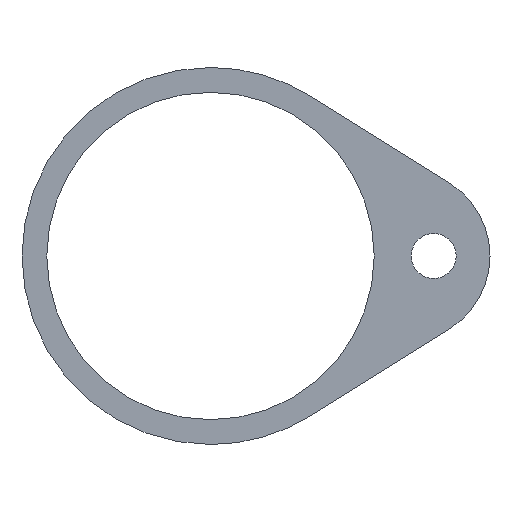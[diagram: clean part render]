
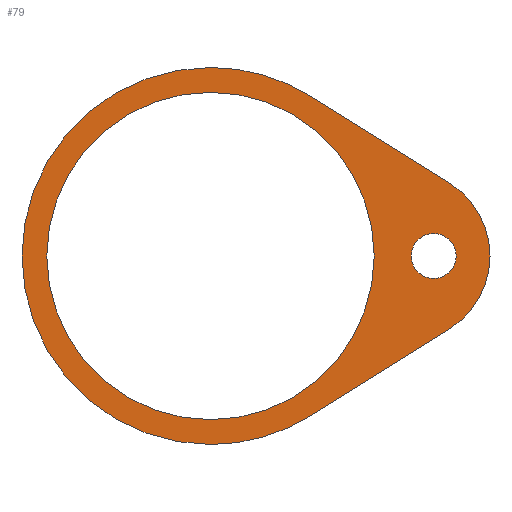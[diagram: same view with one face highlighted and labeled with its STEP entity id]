
A CAD part, front view. The second image highlights one B-rep face of the part: STEP entity #79.
In plain terms, the highlighted planar face has unit normal (0, -1, 0).
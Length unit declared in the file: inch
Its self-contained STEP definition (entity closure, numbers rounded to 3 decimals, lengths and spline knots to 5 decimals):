
#18 = LINE ( 'NONE', #345, #32 ) ;
#21 = CIRCLE ( 'NONE', #215, 0.775 ) ;
#23 = CIRCLE ( 'NONE', #176, 1.47638 ) ;
#25 = CIRCLE ( 'NONE', #202, 1.7 ) ;
#26 = CIRCLE ( 'NONE', #166, 0.203 ) ;
#29 = LINE ( 'NONE', #341, #31 ) ;
#31 = VECTOR ( 'NONE', #342, 39.37008 ) ;
#32 = VECTOR ( 'NONE', #346, 39.37008 ) ;
#49 = ORIENTED_EDGE ( 'NONE', *, *, #182, .F. ) ;
#56 = ORIENTED_EDGE ( 'NONE', *, *, #167, .T. ) ;
#62 = ORIENTED_EDGE ( 'NONE', *, *, #179, .F. ) ;
#65 = ORIENTED_EDGE ( 'NONE', *, *, #191, .T. ) ;
#79 = ADVANCED_FACE ( 'NONE', ( #240, #235, #84 ), #306, .F. ) ;
#84 = FACE_BOUND ( 'NONE', #120, .T. ) ;
#93 = EDGE_LOOP ( 'NONE', ( #56, #65 ) ) ;
#101 = CIRCLE ( 'NONE', #220, 1.7 ) ;
#103 = CIRCLE ( 'NONE', #216, 1.7 ) ;
#109 = EDGE_LOOP ( 'NONE', ( #62, #49, #115, #135, #119, #121 ) ) ;
#115 = ORIENTED_EDGE ( 'NONE', *, *, #174, .F. ) ;
#119 = ORIENTED_EDGE ( 'NONE', *, *, #181, .F. ) ;
#120 = EDGE_LOOP ( 'NONE', ( #137, #139 ) ) ;
#121 = ORIENTED_EDGE ( 'NONE', *, *, #172, .F. ) ;
#135 = ORIENTED_EDGE ( 'NONE', *, *, #180, .F. ) ;
#137 = ORIENTED_EDGE ( 'NONE', *, *, #193, .T. ) ;
#139 = ORIENTED_EDGE ( 'NONE', *, *, #168, .T. ) ;
#145 = CIRCLE ( 'NONE', #226, 0.203 ) ;
#166 = AXIS2_PLACEMENT_3D ( 'NONE', #314, #315, #316 ) ;
#167 = EDGE_CURVE ( 'NONE', #250, #251, #23, .T. ) ;
#168 = EDGE_CURVE ( 'NONE', #255, #254, #26, .T. ) ;
#172 = EDGE_CURVE ( 'NONE', #259, #246, #25, .T. ) ;
#174 = EDGE_CURVE ( 'NONE', #260, #261, #21, .T. ) ;
#176 = AXIS2_PLACEMENT_3D ( 'NONE', #312, #303, #313 ) ;
#179 = EDGE_CURVE ( 'NONE', #262, #259, #103, .T. ) ;
#180 = EDGE_CURVE ( 'NONE', #247, #260, #29, .T. ) ;
#181 = EDGE_CURVE ( 'NONE', #246, #247, #101, .T. ) ;
#182 = EDGE_CURVE ( 'NONE', #261, #262, #18, .T. ) ;
#191 = EDGE_CURVE ( 'NONE', #251, #250, #236, .T. ) ;
#193 = EDGE_CURVE ( 'NONE', #254, #255, #145, .T. ) ;
#202 = AXIS2_PLACEMENT_3D ( 'NONE', #324, #325, #326 ) ;
#213 = AXIS2_PLACEMENT_3D ( 'NONE', #307, #308, #309 ) ;
#215 = AXIS2_PLACEMENT_3D ( 'NONE', #329, #330, #331 ) ;
#216 = AXIS2_PLACEMENT_3D ( 'NONE', #337, #339, #340 ) ;
#217 = AXIS2_PLACEMENT_3D ( 'NONE', #367, #369, #370 ) ;
#220 = AXIS2_PLACEMENT_3D ( 'NONE', #334, #343, #344 ) ;
#226 = AXIS2_PLACEMENT_3D ( 'NONE', #364, #374, #375 ) ;
#235 = FACE_OUTER_BOUND ( 'NONE', #109, .T. ) ;
#236 = CIRCLE ( 'NONE', #217, 1.47638 ) ;
#240 = FACE_BOUND ( 'NONE', #93, .T. ) ;
#246 = VERTEX_POINT ( 'NONE', #381 ) ;
#247 = VERTEX_POINT ( 'NONE', #389 ) ;
#250 = VERTEX_POINT ( 'NONE', #391 ) ;
#251 = VERTEX_POINT ( 'NONE', #392 ) ;
#254 = VERTEX_POINT ( 'NONE', #394 ) ;
#255 = VERTEX_POINT ( 'NONE', #395 ) ;
#259 = VERTEX_POINT ( 'NONE', #399 ) ;
#260 = VERTEX_POINT ( 'NONE', #400 ) ;
#261 = VERTEX_POINT ( 'NONE', #401 ) ;
#262 = VERTEX_POINT ( 'NONE', #402 ) ;
#303 = DIRECTION ( 'NONE',  ( 0., 1., 0. ) ) ;
#306 = PLANE ( 'NONE',  #213 ) ;
#307 = CARTESIAN_POINT ( 'NONE',  ( 0., 0., 0. ) ) ;
#308 = DIRECTION ( 'NONE',  ( 0., 1., 0. ) ) ;
#309 = DIRECTION ( 'NONE',  ( 0., 0., 1. ) ) ;
#312 = CARTESIAN_POINT ( 'NONE',  ( 0., 0., 0. ) ) ;
#313 = DIRECTION ( 'NONE',  ( 0., 0., 1. ) ) ;
#314 = CARTESIAN_POINT ( 'NONE',  ( 2.012, 0., 0. ) ) ;
#315 = DIRECTION ( 'NONE',  ( 0., 1., 0. ) ) ;
#316 = DIRECTION ( 'NONE',  ( 0., 0., 1. ) ) ;
#324 = CARTESIAN_POINT ( 'NONE',  ( 0., 0., 0. ) ) ;
#325 = DIRECTION ( 'NONE',  ( 0., 1., 0. ) ) ;
#326 = DIRECTION ( 'NONE',  ( 0., 0., 1. ) ) ;
#329 = CARTESIAN_POINT ( 'NONE',  ( 1.74555, 0., 0. ) ) ;
#330 = DIRECTION ( 'NONE',  ( 0., 1., 0. ) ) ;
#331 = DIRECTION ( 'NONE',  ( 0., 0., 1. ) ) ;
#334 = CARTESIAN_POINT ( 'NONE',  ( 0., 0., 0. ) ) ;
#337 = CARTESIAN_POINT ( 'NONE',  ( 0., 0., 0. ) ) ;
#339 = DIRECTION ( 'NONE',  ( 0., 1., 0. ) ) ;
#340 = DIRECTION ( 'NONE',  ( 0., 0., 1. ) ) ;
#341 = CARTESIAN_POINT ( 'NONE',  ( 0.90086, 0., 1.44168 ) ) ;
#342 = DIRECTION ( 'NONE',  ( 0.848, 0., -0.53 ) ) ;
#343 = DIRECTION ( 'NONE',  ( 0., 1., 0. ) ) ;
#344 = DIRECTION ( 'NONE',  ( 0., 0., 1. ) ) ;
#345 = CARTESIAN_POINT ( 'NONE',  ( 0.90086, 0., -1.44168 ) ) ;
#346 = DIRECTION ( 'NONE',  ( -0.848, 0., -0.53 ) ) ;
#364 = CARTESIAN_POINT ( 'NONE',  ( 2.012, 0., 0. ) ) ;
#367 = CARTESIAN_POINT ( 'NONE',  ( 0., 0., 0. ) ) ;
#369 = DIRECTION ( 'NONE',  ( 0., 1., 0. ) ) ;
#370 = DIRECTION ( 'NONE',  ( 0., 0., 1. ) ) ;
#374 = DIRECTION ( 'NONE',  ( 0., 1., 0. ) ) ;
#375 = DIRECTION ( 'NONE',  ( 0., 0., 1. ) ) ;
#381 = CARTESIAN_POINT ( 'NONE',  ( 0., 0., 1.7 ) ) ;
#389 = CARTESIAN_POINT ( 'NONE',  ( 0.90086, 0., 1.44168 ) ) ;
#391 = CARTESIAN_POINT ( 'NONE',  ( 0., 0., -1.47638 ) ) ;
#392 = CARTESIAN_POINT ( 'NONE',  ( 0., 0., 1.47638 ) ) ;
#394 = CARTESIAN_POINT ( 'NONE',  ( 2.012, 0., -0.203 ) ) ;
#395 = CARTESIAN_POINT ( 'NONE',  ( 2.012, 0., 0.203 ) ) ;
#399 = CARTESIAN_POINT ( 'NONE',  ( 0., 0., -1.7 ) ) ;
#400 = CARTESIAN_POINT ( 'NONE',  ( 2.15624, 0., 0.65724 ) ) ;
#401 = CARTESIAN_POINT ( 'NONE',  ( 2.15624, 0., -0.65724 ) ) ;
#402 = CARTESIAN_POINT ( 'NONE',  ( 0.90086, 0., -1.44168 ) ) ;
